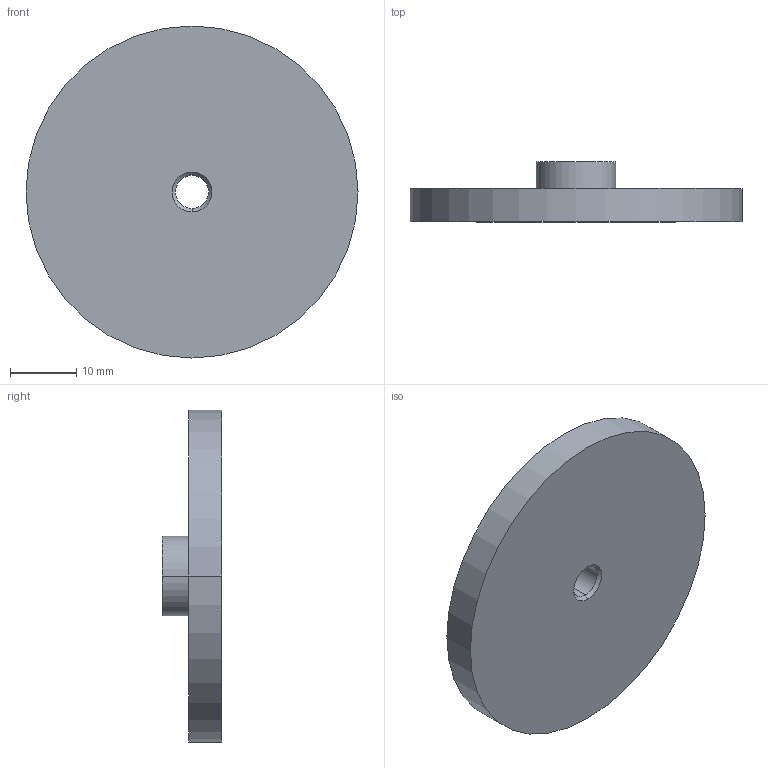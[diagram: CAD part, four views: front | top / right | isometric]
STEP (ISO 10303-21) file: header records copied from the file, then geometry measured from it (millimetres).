
FILE_DESCRIPTION (( 'STEP AP203' ), '1' );
FILE_NAME ('451250.STEP', '2018-10-15T11:37:51', ( '' ), ( '' ), 'SwSTEP 2.0', 'SolidWorks 2015', '' );
FILE_SCHEMA (( 'CONFIG_CONTROL_DESIGN' ));
Length unit declared in the file: millimetre
Products named in the file (1): 451250
Bounding box: 50 x 9 x 50 mm (x, y, z)
Volume: 10089 mm3; surface area: 4956.7 mm2
Topology: 1 solids, 1 shells, 13 faces, 26 edges, 16 vertices
Faces by surface type: cylinder 6, cone 4, plane 3
Entity records: 425 total; most frequent: DIRECTION 70, CARTESIAN_POINT 56, ORIENTED_EDGE 52, AXIS2_PLACEMENT_3D 30, EDGE_CURVE 26, VERTEX_POINT 16, CIRCLE 16, EDGE_LOOP 16
